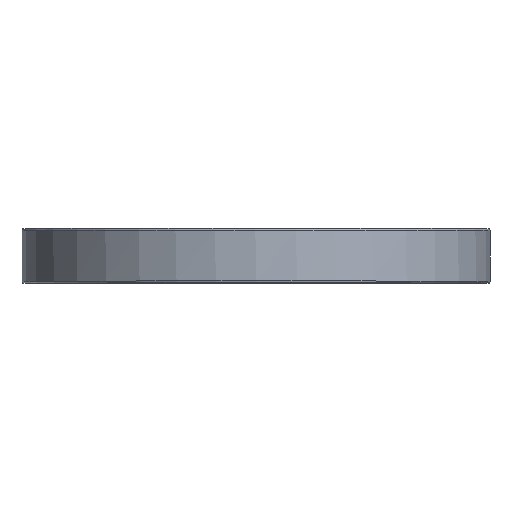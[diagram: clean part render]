
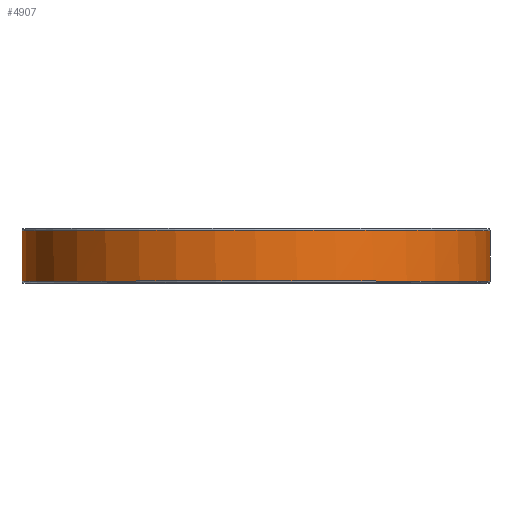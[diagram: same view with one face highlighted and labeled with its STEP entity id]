
A CAD part, top view. The second image highlights one B-rep face of the part: STEP entity #4907.
In plain terms, the highlighted cylindrical face has radius 120 mm (diameter 240 mm), a partial arc.
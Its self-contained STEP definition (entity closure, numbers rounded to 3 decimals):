
#2269=EDGE_CURVE('',#3339,#2863,#5651,.T.);
#2383=EDGE_CURVE('',#4837,#4211,#5778,.T.);
#2479=EDGE_CURVE('',#2863,#3287,#5901,.T.);
#2681=EDGE_CURVE('',#4837,#2751,#6126,.T.);
#2751=VERTEX_POINT('',#6202);
#2863=VERTEX_POINT('',#6330);
#3287=VERTEX_POINT('',#6803);
#3339=VERTEX_POINT('',#6858);
#4089=EDGE_CURVE('',#4211,#3339,#7718,.T.);
#4139=EDGE_CURVE('',#3287,#2751,#7776,.T.);
#4211=VERTEX_POINT('',#7855);
#4837=VERTEX_POINT('',#8566);
#4907=ADVANCED_FACE('',(#8644),#8645,.T.);
#5651=LINE('',#9582,#9583);
#5778=CIRCLE('',#9757,120.0);
#5901=CIRCLE('',#9918,120.0);
#6126=LINE('',#10213,#10214);
#6202=CARTESIAN_POINT('',(-120.0,1.0,0.));
#6330=CARTESIAN_POINT('',(120.0,1.0,0.));
#6803=CARTESIAN_POINT('',(-119.999,1.0,0.524));
#6858=CARTESIAN_POINT('',(120.0,27.0,0.));
#7718=CIRCLE('',#12276,120.0);
#7776=CIRCLE('',#12343,120.0);
#7855=CARTESIAN_POINT('',(119.998,27.0,0.744));
#8566=CARTESIAN_POINT('',(-120.0,27.0,0.));
#8644=FACE_OUTER_BOUND('',#13455,.T.);
#8645=CYLINDRICAL_SURFACE('',#13456,120.0);
#9582=CARTESIAN_POINT('',(120.0,27.0,0.));
#9583=VECTOR('',#14350,26.0);
#9757=AXIS2_PLACEMENT_3D('',#14529,#14530,#14531);
#9918=AXIS2_PLACEMENT_3D('',#14725,#14726,#14727);
#10213=CARTESIAN_POINT('',(-120.0,27.0,0.));
#10214=VECTOR('',#15022,26.0);
#12276=AXIS2_PLACEMENT_3D('',#17094,#17095,#17096);
#12343=AXIS2_PLACEMENT_3D('',#17167,#17168,#17169);
#13455=EDGE_LOOP('',(#18290,#18291,#18292,#18293,#18294,#18295));
#13456=AXIS2_PLACEMENT_3D('',#18296,#18297,#18298);
#14350=DIRECTION('',(0.0,-1.0,0.));
#14529=CARTESIAN_POINT('',(0.0,27.0,0.0));
#14530=DIRECTION('',(0.0,1.0,0.0));
#14531=DIRECTION('',(-1.0,0.0,0.0));
#14725=CARTESIAN_POINT('',(0.0,1.0,0.0));
#14726=DIRECTION('',(0.0,-1.0,0.0));
#14727=DIRECTION('',(1.0,0.0,0.0));
#15022=DIRECTION('',(0.0,-1.0,0.));
#17094=CARTESIAN_POINT('',(0.0,27.0,0.0));
#17095=DIRECTION('',(0.0,1.0,0.0));
#17096=DIRECTION('',(-1.0,0.0,0.0));
#17167=CARTESIAN_POINT('',(0.0,1.0,0.0));
#17168=DIRECTION('',(0.0,-1.0,0.0));
#17169=DIRECTION('',(1.0,0.0,0.0));
#18290=ORIENTED_EDGE('',*,*,#2269,.F.);
#18291=ORIENTED_EDGE('',*,*,#4089,.F.);
#18292=ORIENTED_EDGE('',*,*,#2383,.F.);
#18293=ORIENTED_EDGE('',*,*,#2681,.T.);
#18294=ORIENTED_EDGE('',*,*,#4139,.F.);
#18295=ORIENTED_EDGE('',*,*,#2479,.F.);
#18296=CARTESIAN_POINT('',(0.0,28.0,0.0));
#18297=DIRECTION('',(-0.0,-1.0,-0.0));
#18298=DIRECTION('',(-1.0,0.0,0.0));
